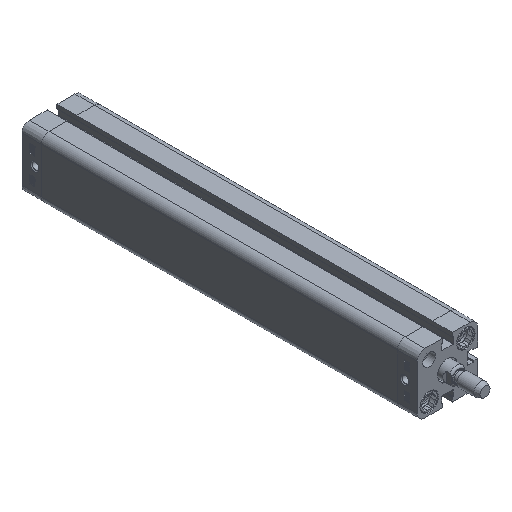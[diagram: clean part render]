
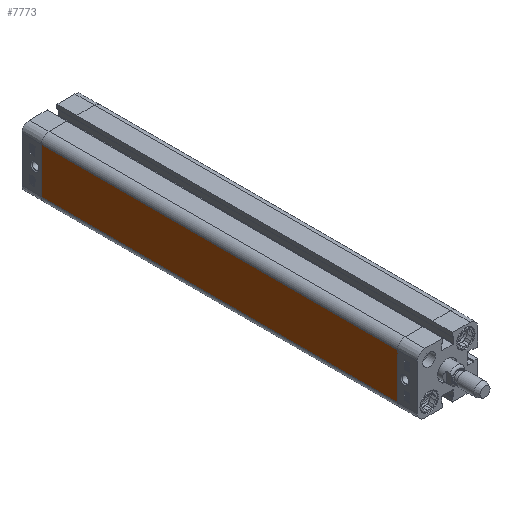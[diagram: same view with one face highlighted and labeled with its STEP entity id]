
A CAD part, isometric view. The second image highlights one B-rep face of the part: STEP entity #7773.
In plain terms, the highlighted planar face has unit normal (-1, 0, 0).
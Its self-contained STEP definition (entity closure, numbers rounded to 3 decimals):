
#6294=CARTESIAN_POINT('',(-18.15,-213.5,13.65));
#6295=VERTEX_POINT('',#6294);
#6302=CARTESIAN_POINT('',(-18.15,-213.5,-13.65));
#6303=VERTEX_POINT('',#6302);
#6304=CARTESIAN_POINT('',(-18.15,-213.5,-13.65));
#6305=DIRECTION('',(0.0,0.0,1.0));
#6306=VECTOR('',#6305,27.3);
#6307=LINE('',#6304,#6306);
#6308=EDGE_CURVE('',#6303,#6295,#6307,.T.);
#7731=CARTESIAN_POINT('',(-18.15,0.0,-13.65));
#7732=VERTEX_POINT('',#7731);
#7733=CARTESIAN_POINT('',(-18.15,0.0,-13.65));
#7734=DIRECTION('',(0.0,-1.0,0.0));
#7735=VECTOR('',#7734,213.5);
#7736=LINE('',#7733,#7735);
#7737=EDGE_CURVE('',#7732,#6303,#7736,.T.);
#7750=CARTESIAN_POINT('',(-18.15,0.0,-13.65));
#7751=DIRECTION('',(-1.0,0.0,0.0));
#7752=DIRECTION('',(0.0,0.0,1.0));
#7753=AXIS2_PLACEMENT_3D('',#7750,#7751,#7752);
#7754=PLANE('',#7753);
#7755=ORIENTED_EDGE('',*,*,#6308,.T.);
#7756=CARTESIAN_POINT('',(-18.15,0.0,13.65));
#7757=VERTEX_POINT('',#7756);
#7758=CARTESIAN_POINT('',(-18.15,0.0,13.65));
#7759=DIRECTION('',(0.0,-1.0,0.0));
#7760=VECTOR('',#7759,213.5);
#7761=LINE('',#7758,#7760);
#7762=EDGE_CURVE('',#7757,#6295,#7761,.T.);
#7763=ORIENTED_EDGE('',*,*,#7762,.F.);
#7764=CARTESIAN_POINT('',(-18.15,0.0,-13.65));
#7765=DIRECTION('',(0.0,0.0,1.0));
#7766=VECTOR('',#7765,27.3);
#7767=LINE('',#7764,#7766);
#7768=EDGE_CURVE('',#7732,#7757,#7767,.T.);
#7769=ORIENTED_EDGE('',*,*,#7768,.F.);
#7770=ORIENTED_EDGE('',*,*,#7737,.T.);
#7771=EDGE_LOOP('',(#7755,#7763,#7769,#7770));
#7772=FACE_OUTER_BOUND('',#7771,.T.);
#7773=ADVANCED_FACE('',(#7772),#7754,.T.);
